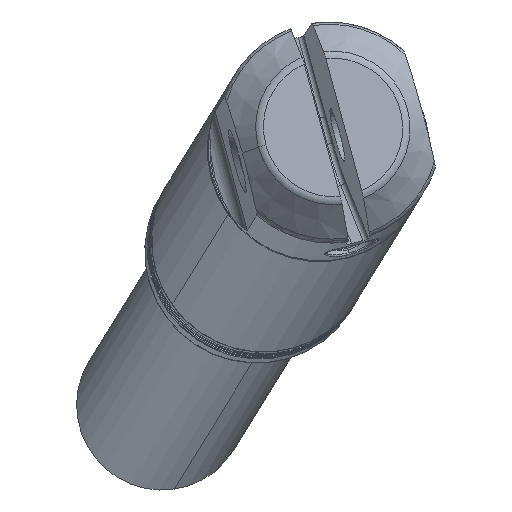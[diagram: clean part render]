
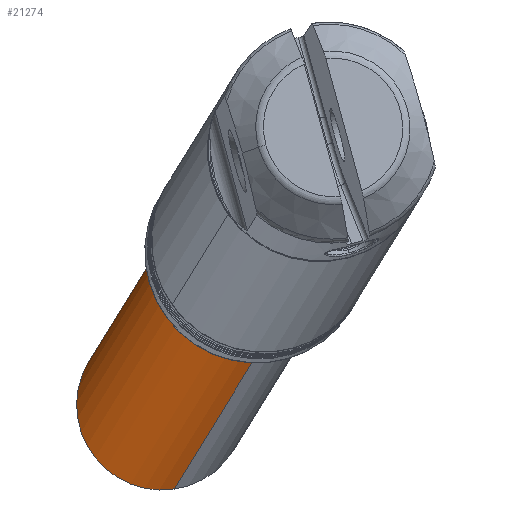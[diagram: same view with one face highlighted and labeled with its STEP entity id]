
A CAD part, isometric view. The second image highlights one B-rep face of the part: STEP entity #21274.
In plain terms, the highlighted cylindrical face has radius 16 mm (diameter 32 mm), a partial arc.
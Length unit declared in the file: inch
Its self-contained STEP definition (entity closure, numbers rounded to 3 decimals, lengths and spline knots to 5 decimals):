
#477 = FACE_OUTER_BOUND ( 'NONE', #9239, .T. ) ;
#859 = DIRECTION ( 'NONE',  ( 0.467, 0.575, -0.672 ) ) ;
#1365 = AXIS2_PLACEMENT_3D ( 'NONE', #6036, #19766, #19688 ) ;
#1850 = CIRCLE ( 'NONE', #10266, 0.62992 ) ;
#2626 = CYLINDRICAL_SURFACE ( 'NONE', #21272, 0.62992 ) ;
#2657 = CIRCLE ( 'NONE', #1365, 0.62992 ) ;
#2773 = CARTESIAN_POINT ( 'NONE',  ( 7.80047, 4.32904, -6.47805 ) ) ;
#3087 = LINE ( 'NONE', #2773, #6162 ) ;
#3446 = EDGE_CURVE ( 'NONE', #24666, #21799, #2657, .T. ) ;
#4013 = CARTESIAN_POINT ( 'NONE',  ( 1.39779, -3.71645, 1.15726 ) ) ;
#4161 = CARTESIAN_POINT ( 'NONE',  ( 1.84907, -2.99596, 2.08701 ) ) ;
#4363 = VERTEX_POINT ( 'NONE', #5857 ) ;
#5093 = CARTESIAN_POINT ( 'NONE',  ( 7.34919, 3.60855, -7.4078 ) ) ;
#5317 = CARTESIAN_POINT ( 'NONE',  ( 7.57483, 3.96879, -6.94292 ) ) ;
#5857 = CARTESIAN_POINT ( 'NONE',  ( -2.37012, -8.18894, 8.15911 ) ) ;
#6036 = CARTESIAN_POINT ( 'NONE',  ( 1.62343, -3.3562, 1.62213 ) ) ;
#6162 = VECTOR ( 'NONE', #859, 39.37008 ) ;
#7366 = ORIENTED_EDGE ( 'NONE', *, *, #12701, .T. ) ;
#9239 = EDGE_LOOP ( 'NONE', ( #24407, #7366, #20079, #22900 ) ) ;
#10266 = AXIS2_PLACEMENT_3D ( 'NONE', #20800, #20629, #13054 ) ;
#11139 = EDGE_CURVE ( 'NONE', #24024, #21799, #15981, .T. ) ;
#11513 = CARTESIAN_POINT ( 'NONE',  ( -2.8214, -8.90943, 7.22936 ) ) ;
#12701 = EDGE_CURVE ( 'NONE', #24024, #4363, #1850, .T. ) ;
#13054 = DIRECTION ( 'NONE',  ( 0.358, 0.572, 0.738 ) ) ;
#13104 = EDGE_CURVE ( 'NONE', #4363, #24666, #3087, .T. ) ;
#15981 = LINE ( 'NONE', #5093, #17807 ) ;
#17181 = DIRECTION ( 'NONE',  ( 0.467, 0.575, -0.672 ) ) ;
#17317 = DIRECTION ( 'NONE',  ( 0.358, 0.572, 0.738 ) ) ;
#17807 = VECTOR ( 'NONE', #17181, 39.37008 ) ;
#19688 = DIRECTION ( 'NONE',  ( -0.358, -0.572, -0.738 ) ) ;
#19766 = DIRECTION ( 'NONE',  ( -0.467, -0.575, 0.672 ) ) ;
#20079 = ORIENTED_EDGE ( 'NONE', *, *, #13104, .T. ) ;
#20629 = DIRECTION ( 'NONE',  ( 0.467, 0.575, -0.672 ) ) ;
#20800 = CARTESIAN_POINT ( 'NONE',  ( -2.59576, -8.54919, 7.69424 ) ) ;
#21272 = AXIS2_PLACEMENT_3D ( 'NONE', #5317, #22905, #17317 ) ;
#21274 = ADVANCED_FACE ( 'NONE', ( #477 ), #2626, .T. ) ;
#21799 = VERTEX_POINT ( 'NONE', #4013 ) ;
#22900 = ORIENTED_EDGE ( 'NONE', *, *, #3446, .T. ) ;
#22905 = DIRECTION ( 'NONE',  ( 0.467, 0.575, -0.672 ) ) ;
#24024 = VERTEX_POINT ( 'NONE', #11513 ) ;
#24407 = ORIENTED_EDGE ( 'NONE', *, *, #11139, .F. ) ;
#24666 = VERTEX_POINT ( 'NONE', #4161 ) ;
